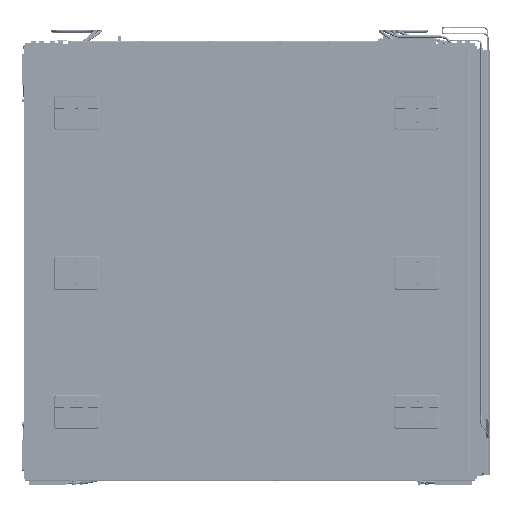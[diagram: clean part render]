
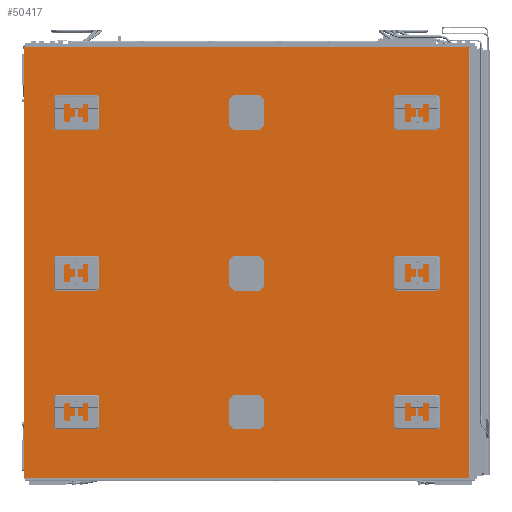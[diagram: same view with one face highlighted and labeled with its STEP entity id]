
A CAD part, front view. The second image highlights one B-rep face of the part: STEP entity #50417.
In plain terms, the highlighted planar face has unit normal (0, -1, 0).
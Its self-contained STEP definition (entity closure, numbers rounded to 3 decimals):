
#50417=ADVANCED_FACE('',(#75639),#64632,.T.);
#64632=PLANE('',#283434);
#75639=FACE_OUTER_BOUND('',#90833,.T.);
#90833=EDGE_LOOP('',(#127588,#127589,#127590,#127591));
#127588=ORIENTED_EDGE('',*,*,#213525,.T.);
#127589=ORIENTED_EDGE('',*,*,#213521,.T.);
#127590=ORIENTED_EDGE('',*,*,#213526,.F.);
#127591=ORIENTED_EDGE('',*,*,#213527,.T.);
#185980=VERTEX_POINT('',#410526);
#185981=VERTEX_POINT('',#410527);
#185984=VERTEX_POINT('',#410535);
#185985=VERTEX_POINT('',#410537);
#213521=EDGE_CURVE('',#185980,#185981,#244674,.T.);
#213525=EDGE_CURVE('',#185984,#185980,#244678,.T.);
#213526=EDGE_CURVE('',#185985,#185981,#244679,.T.);
#213527=EDGE_CURVE('',#185985,#185984,#244680,.T.);
#244674=LINE('',#410525,#262095);
#244678=LINE('',#410534,#262099);
#244679=LINE('',#410536,#262100);
#244680=LINE('',#410538,#262101);
#262095=VECTOR('',#321449,1.);
#262099=VECTOR('',#321455,1.);
#262100=VECTOR('',#321456,1.);
#262101=VECTOR('',#321457,1.);
#283434=AXIS2_PLACEMENT_3D('',#410539,#321458,#321459);
#321449=DIRECTION('',(1.,0.,0.));
#321455=DIRECTION('',(0.,0.,-1.));
#321456=DIRECTION('',(0.,0.,-1.));
#321457=DIRECTION('',(-1.,0.,0.));
#321458=DIRECTION('',(0.,-1.,0.));
#321459=DIRECTION('',(0.,0.,1.));
#410525=CARTESIAN_POINT('',(180.3,4980.5,4090.));
#410526=CARTESIAN_POINT('',(-1100.7,4980.5,4090.));
#410527=CARTESIAN_POINT('',(1461.3,4980.5,4090.));
#410534=CARTESIAN_POINT('',(-1100.7,4980.5,6577.));
#410535=CARTESIAN_POINT('',(-1100.7,4980.5,6577.));
#410536=CARTESIAN_POINT('',(1461.3,4980.5,6577.));
#410537=CARTESIAN_POINT('',(1461.3,4980.5,6577.));
#410538=CARTESIAN_POINT('',(180.3,4980.5,6577.));
#410539=CARTESIAN_POINT('',(180.3,4980.5,6577.));
